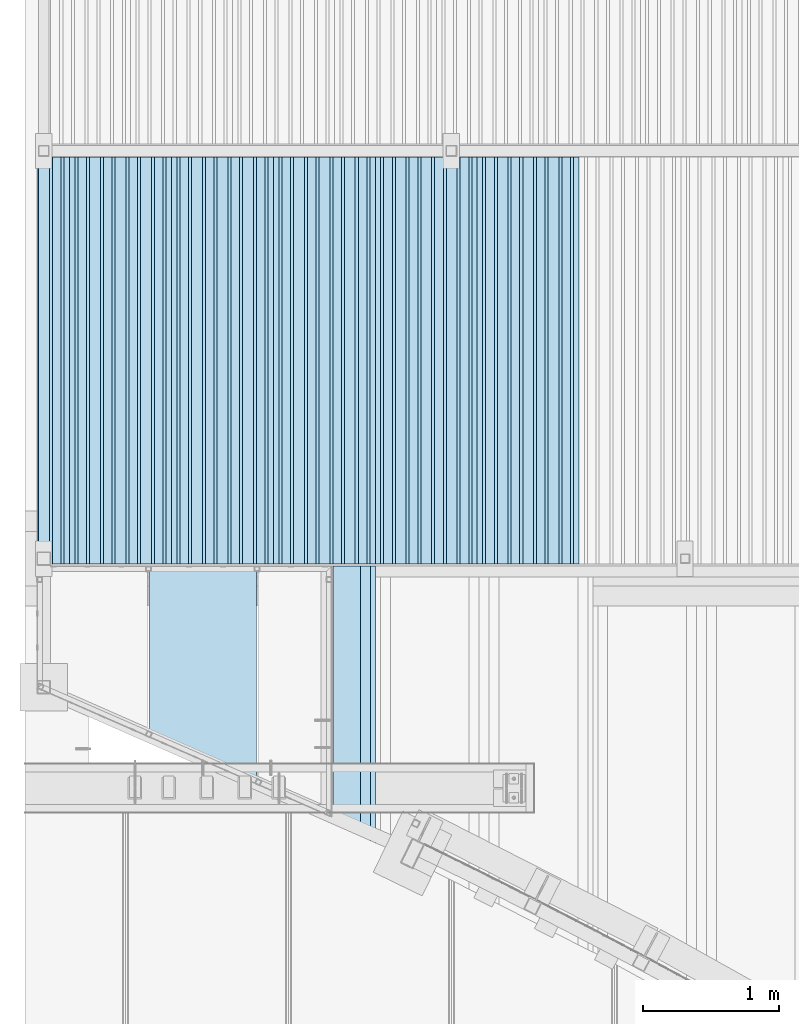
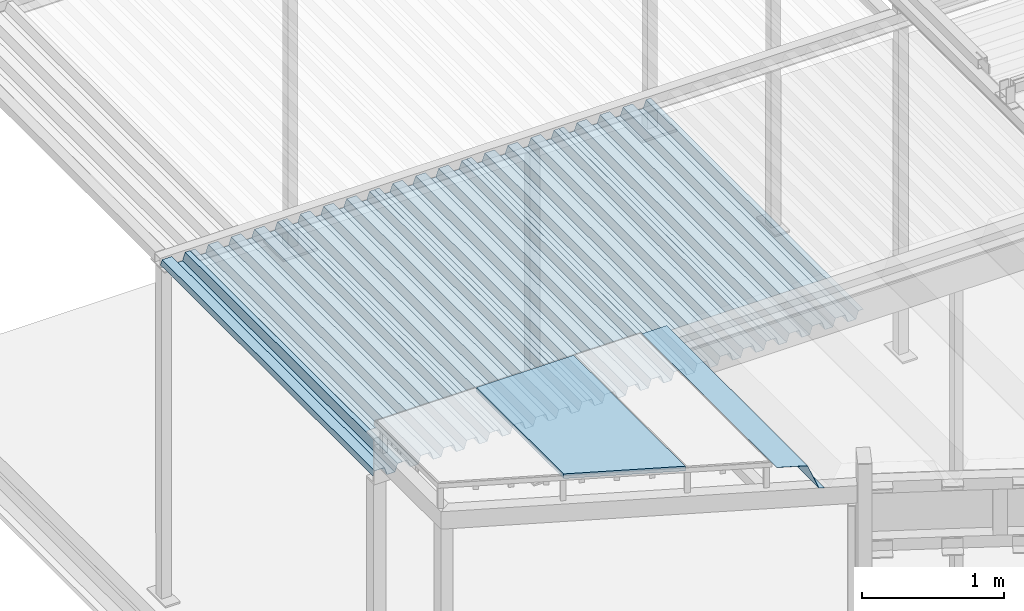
# One storey, part 59 of 98: 8 slabs.
"""IFC2X3 building model written with IfcOpenShell, lengths in millimetres."""

from ifc_helpers import new_model, entity, si_unit, converted_unit, derived_unit, direction, frame, origin_with_axes, place, context, subcontext, project, spatial, faceted_brep, material, type_object, element, save


model = new_model("IFC2X3")

# Units and contexts
model_context = context("Model", 3, precision=0.01, world=frame((0.0, 4.29681676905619e-09, 0.0)), true_north=direction((4.01073788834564e-13, 1.0)))
plan_context = context("Plan", 3, precision=0.01, world=frame((0.0, 4.29681676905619e-09, 0.0)), true_north=direction((4.01073788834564e-13, 1.0)))
body_context = subcontext(model_context, "Body", "Model", "MODEL_VIEW")
ifc_project = project(units=[converted_unit("PLANEANGLEUNIT", "DEGREE", entity("IfcPositiveLengthMeasure", 0.0174532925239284), si_unit("PLANEANGLEUNIT", "RADIAN"), dimensions=[0, 0, 0, 0, 0, 0, 0]), si_unit("AREAUNIT", "SQUARE_METRE"), si_unit("LENGTHUNIT", "METRE", prefix="MILLI"), si_unit("MASSUNIT", "GRAM", prefix="KILO"), si_unit("POWERUNIT", "WATT"), si_unit("PRESSUREUNIT", "PASCAL"), si_unit("FORCEUNIT", "NEWTON", prefix="KILO"), si_unit("ELECTRICCURRENTUNIT", "AMPERE"), si_unit("THERMODYNAMICTEMPERATUREUNIT", "DEGREE_CELSIUS"), si_unit("TIMEUNIT", "SECOND"), si_unit("VOLUMEUNIT", "CUBIC_METRE"), derived_unit("LINEARVELOCITYUNIT", [(si_unit("LENGTHUNIT", "METRE"), 1), (si_unit("TIMEUNIT", "SECOND"), -1)]), derived_unit("VOLUMETRICFLOWRATEUNIT", [(si_unit("VOLUMEUNIT", "CUBIC_METRE"), 1), (si_unit("TIMEUNIT", "SECOND"), -1)]), derived_unit("THERMALTRANSMITTANCEUNIT", [(si_unit("POWERUNIT", "WATT"), 1), (si_unit("THERMODYNAMICTEMPERATUREUNIT", "KELVIN"), -1), (si_unit("AREAUNIT", "SQUARE_METRE"), -1)])], contexts=[model_context, plan_context])

# Site, building, storey
site_placement = place(None, frame((0.0, -4.29681676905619e-09, 0.0), z_axis=(0.0, 0.0, 1.0), x_axis=(1.0, 0.0, 0.0)))
site = spatial("IfcSite", under=ifc_project, at=site_placement, Name="Gardermoen", CompositionType="ELEMENT")
building_placement = place(site_placement, frame((0.0, 4.29681676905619e-09, 0.0), z_axis=(0.0, 0.0, 1.0), x_axis=(1.0, 0.0, 0.0)))
building = spatial("IfcBuilding", under=site, at=building_placement, Name="TS", CompositionType="ELEMENT")
storey_placement = place(building_placement, origin_with_axes())
storey = spatial("IfcBuildingStorey", under=building, at=storey_placement, Name="D", CompositionType="ELEMENT", Elevation=0.0)

# Slabs
ifc_material_1 = material(Name="STEEL/S355")
slab_type_1 = type_object("IfcSlabType", Name="PLANJA70", PredefinedType="NOTDEFINED")
slab_1_placement = place(storey_placement, frame((513814.996695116, 414458.999999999, 206834.129718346), z_axis=(0.0, 0.0, 1.0), x_axis=(0.0, 1.0, 0.0)))
element("IfcSlab", 1, at=slab_1_placement, inside=storey, type_object=slab_type_1, material=ifc_material_1, Name="STÅLTAK", ObjectType="PLANJA70", PredefinedType="FLOOR", context=body_context, shape_type="Brep", body=[
    faceted_brep([(0.0, -226.480117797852, 33.1500015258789), (0.0, -148.519882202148, 33.1500015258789), (2995.66049790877, -148.519882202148, 33.1500015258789), (2995.66049790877, -226.480117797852, 33.1500015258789), (0.0, -249.0, -34.1500015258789), (2995.66049790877, -249.0, -34.1500015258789), (0.0, -313.5, -34.1500015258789), (2995.66049790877, -313.5, -34.1500015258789), (0.0, -335.789306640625, 32.1500015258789), (2995.66049790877, -335.789306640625, 32.1500015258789), (0.0, -375.0, 32.1500015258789), (2995.66049790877, -375.0, 32.1500015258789), (0.0, -375.0, 33.1500015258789), (2995.66049790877, -375.0, 33.1500015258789), (0.0, -335.070495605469, 33.1500015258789), (2995.66049790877, -335.070495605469, 33.1500015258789), (0.0, -312.781188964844, -33.1500015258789), (2995.66049790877, -312.781188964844, -33.1500015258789), (0.0, -249.719879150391, -33.1500015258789), (2995.66049790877, -249.719879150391, -33.1500015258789), (0.0, -227.199996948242, 34.1500015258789), (2995.66049790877, -227.199996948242, 34.1500015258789), (0.0, -147.800003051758, 34.1500015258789), (2995.66049790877, -147.800003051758, 34.1500015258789), (2995.66049790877, -135.00417203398, -4.08996166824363), (0.0, -135.00417203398, -4.08996166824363), (0.0, -135.00417203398, -7.2412992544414), (2995.66049790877, -135.00417203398, -7.2412992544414)], [[[0, 1, 2, 3]], [[4, 0, 3, 5]], [[6, 4, 5, 7]], [[8, 6, 7, 9]], [[10, 8, 9, 11]], [[12, 10, 11, 13]], [[14, 12, 13, 15]], [[16, 14, 15, 17]], [[18, 16, 17, 19]], [[20, 18, 19, 21]], [[22, 20, 21, 23]], [[22, 23, 24, 25]], [[1, 0, 4, 6, 8, 10, 12, 14, 16, 18, 20, 22, 25, 26]], [[2, 1, 26, 27]], [[23, 21, 19, 17, 15, 13, 11, 9, 7, 5, 3, 2, 27, 24]], [[26, 25, 24, 27]]]),
])
slab_2_placement = place(storey_placement, frame((514564.996695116, 414458.999999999, 206834.129718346), z_axis=(0.0, 0.0, 1.0), x_axis=(0.0, 1.0, 0.0)))
element("IfcSlab", 2, at=slab_2_placement, inside=storey, type_object=slab_type_1, material=ifc_material_1, Name="STÅLTAK", ObjectType="PLANJA70", PredefinedType="FLOOR", context=body_context, shape_type="Brep", body=[
    faceted_brep([(0.0, 375.0, 34.1500015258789), (0.0, 335.299987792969, 34.1500015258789), (2995.66049790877, 335.299987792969, 34.1500015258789), (2995.66049790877, 375.0, 34.1500015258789), (0.0, 313.010681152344, -32.1500015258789), (2995.66049790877, 313.010681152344, -32.1500015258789), (0.0, 249.489303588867, -32.1500015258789), (2995.66049790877, 249.489303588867, -32.1500015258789), (0.0, 227.199996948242, 34.1500015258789), (2995.66049790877, 227.199996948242, 34.1500015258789), (0.0, 147.800003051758, 34.1500015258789), (2995.66049790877, 147.800003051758, 34.1500015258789), (0.0, 125.280120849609, -33.1500015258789), (2995.66049790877, 125.280120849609, -33.1500015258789), (0.0, 62.2198791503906, -33.1500015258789), (2995.66049790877, 62.2198791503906, -33.1500015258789), (0.0, 39.7000007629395, 34.1500015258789), (2995.66049790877, 39.7000007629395, 34.1500015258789), (0.0, -39.7000007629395, 34.1500015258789), (2995.66049790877, -39.7000007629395, 34.1500015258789), (0.0, -62.2198791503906, -33.1500015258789), (2995.66049790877, -62.2198791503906, -33.1500015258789), (0.0, -125.280120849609, -33.1500015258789), (2995.66049790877, -125.280120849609, -33.1500015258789), (0.0, -147.800003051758, 34.1500015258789), (2995.66049790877, -147.800003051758, 34.1500015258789), (0.0, -227.199996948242, 34.1500015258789), (2995.66049790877, -227.199996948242, 34.1500015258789), (0.0, -249.719879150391, -33.1500015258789), (2995.66049790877, -249.719879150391, -33.1500015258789), (0.0, -312.781188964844, -33.1500015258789), (2995.66049790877, -312.781188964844, -33.1500015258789), (0.0, -335.070495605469, 33.1500015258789), (2995.66049790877, -335.070495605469, 33.1500015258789), (0.0, -375.0, 33.1500015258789), (2995.66049790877, -375.0, 33.1500015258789), (0.0, -375.0, 32.1500015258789), (2995.66049790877, -375.0, 32.1500015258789), (0.0, -335.789306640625, 32.1500015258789), (2995.66049790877, -335.789306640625, 32.1500015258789), (0.0, -313.5, -34.1500015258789), (2995.66049790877, -313.5, -34.1500015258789), (0.0, -249.0, -34.1500015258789), (2995.66049790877, -249.0, -34.1500015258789), (0.0, -226.480117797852, 33.1500015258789), (2995.66049790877, -226.480117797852, 33.1500015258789), (0.0, -148.519882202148, 33.1500015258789), (2995.66049790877, -148.519882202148, 33.1500015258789), (0.0, -126.0, -34.1500015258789), (2995.66049790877, -126.0, -34.1500015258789), (0.0, -61.5, -34.1500015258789), (2995.66049790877, -61.5, -34.1500015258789), (0.0, -38.9801177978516, 33.1500015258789), (2995.66049790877, -38.9801177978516, 33.1500015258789), (0.0, 38.9801177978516, 33.1500015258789), (2995.66049790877, 38.9801177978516, 33.1500015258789), (0.0, 61.5, -34.1500015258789), (2995.66049790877, 61.5, -34.1500015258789), (0.0, 126.0, -34.1500015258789), (2995.66049790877, 126.0, -34.1500015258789), (0.0, 148.519882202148, 33.1500015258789), (2995.66049790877, 148.519882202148, 33.1500015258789), (0.0, 226.481185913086, 33.1500015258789), (2995.66049790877, 226.481185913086, 33.1500015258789), (0.0, 248.770492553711, -33.1500015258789), (2995.66049790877, 248.770492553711, -33.1500015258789), (0.0, 313.7294921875, -33.1500015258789), (2995.66049790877, 313.7294921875, -33.1500015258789), (0.0, 336.018798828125, 33.1500015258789), (2995.66049790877, 336.018798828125, 33.1500015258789), (0.0, 375.0, 33.1500015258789), (2995.66049790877, 375.0, 33.1500015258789)], [[[0, 1, 2, 3]], [[1, 4, 5, 2]], [[4, 6, 7, 5]], [[6, 8, 9, 7]], [[8, 10, 11, 9]], [[10, 12, 13, 11]], [[12, 14, 15, 13]], [[14, 16, 17, 15]], [[16, 18, 19, 17]], [[18, 20, 21, 19]], [[20, 22, 23, 21]], [[22, 24, 25, 23]], [[24, 26, 27, 25]], [[26, 28, 29, 27]], [[28, 30, 31, 29]], [[30, 32, 33, 31]], [[32, 34, 35, 33]], [[34, 36, 37, 35]], [[36, 38, 39, 37]], [[38, 40, 41, 39]], [[40, 42, 43, 41]], [[42, 44, 45, 43]], [[44, 46, 47, 45]], [[46, 48, 49, 47]], [[48, 50, 51, 49]], [[50, 52, 53, 51]], [[52, 54, 55, 53]], [[54, 56, 57, 55]], [[56, 58, 59, 57]], [[58, 60, 61, 59]], [[60, 62, 63, 61]], [[62, 64, 65, 63]], [[64, 66, 67, 65]], [[66, 68, 69, 67]], [[68, 70, 71, 69]], [[70, 0, 3, 71]], [[5, 7, 9, 11, 13, 15, 17, 19, 21, 23, 25, 27, 29, 31, 33, 35, 37, 39, 41, 43, 45, 47, 49, 51, 53, 55, 57, 59, 61, 63, 65, 67, 69, 71, 3, 2]], [[70, 68, 66, 64, 62, 60, 58, 56, 54, 52, 50, 48, 46, 44, 42, 40, 38, 36, 34, 32, 30, 28, 26, 24, 22, 20, 18, 16, 14, 12, 10, 8, 6, 4, 1, 0]]]),
])
slab_3_placement = place(storey_placement, frame((515314.996695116, 414458.999999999, 206834.129718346), z_axis=(0.0, 0.0, 1.0), x_axis=(0.0, 1.0, 0.0)))
element("IfcSlab", 3, at=slab_3_placement, inside=storey, type_object=slab_type_1, material=ifc_material_1, Name="STÅLTAK", ObjectType="PLANJA70", PredefinedType="FLOOR", context=body_context, shape_type="Brep", body=[
    faceted_brep([(0.0, 375.0, 34.1500015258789), (0.0, 335.299987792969, 34.1500015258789), (2995.66049790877, 335.299987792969, 34.1500015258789), (2995.66049790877, 375.0, 34.1500015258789), (0.0, 313.010681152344, -32.1500015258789), (2995.66049790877, 313.010681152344, -32.1500015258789), (0.0, 249.489303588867, -32.1500015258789), (2995.66049790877, 249.489303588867, -32.1500015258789), (0.0, 227.199996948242, 34.1500015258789), (2995.66049790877, 227.199996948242, 34.1500015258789), (0.0, 147.800003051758, 34.1500015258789), (2995.66049790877, 147.800003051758, 34.1500015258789), (0.0, 125.280120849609, -33.1500015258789), (2995.66049790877, 125.280120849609, -33.1500015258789), (0.0, 62.2198791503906, -33.1500015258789), (2995.66049790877, 62.2198791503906, -33.1500015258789), (0.0, 39.7000007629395, 34.1500015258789), (2995.66049790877, 39.7000007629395, 34.1500015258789), (0.0, -39.7000007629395, 34.1500015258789), (2995.66049790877, -39.7000007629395, 34.1500015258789), (0.0, -62.2198791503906, -33.1500015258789), (2995.66049790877, -62.2198791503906, -33.1500015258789), (0.0, -125.280120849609, -33.1500015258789), (2995.66049790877, -125.280120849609, -33.1500015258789), (0.0, -147.800003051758, 34.1500015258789), (2995.66049790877, -147.800003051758, 34.1500015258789), (0.0, -227.199996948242, 34.1500015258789), (2995.66049790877, -227.199996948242, 34.1500015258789), (0.0, -249.719879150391, -33.1500015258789), (2995.66049790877, -249.719879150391, -33.1500015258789), (0.0, -312.781188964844, -33.1500015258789), (2995.66049790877, -312.781188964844, -33.1500015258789), (0.0, -335.070495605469, 33.1500015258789), (2995.66049790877, -335.070495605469, 33.1500015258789), (0.0, -375.0, 33.1500015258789), (2995.66049790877, -375.0, 33.1500015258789), (0.0, -375.0, 32.1500015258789), (2995.66049790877, -375.0, 32.1500015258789), (0.0, -335.789306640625, 32.1500015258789), (2995.66049790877, -335.789306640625, 32.1500015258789), (0.0, -313.5, -34.1500015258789), (2995.66049790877, -313.5, -34.1500015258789), (0.0, -249.0, -34.1500015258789), (2995.66049790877, -249.0, -34.1500015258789), (0.0, -226.480117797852, 33.1500015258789), (2995.66049790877, -226.480117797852, 33.1500015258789), (0.0, -148.519882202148, 33.1500015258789), (2995.66049790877, -148.519882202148, 33.1500015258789), (0.0, -126.0, -34.1500015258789), (2995.66049790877, -126.0, -34.1500015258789), (0.0, -61.5, -34.1500015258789), (2995.66049790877, -61.5, -34.1500015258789), (0.0, -38.9801177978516, 33.1500015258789), (2995.66049790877, -38.9801177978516, 33.1500015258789), (0.0, 38.9801177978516, 33.1500015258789), (2995.66049790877, 38.9801177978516, 33.1500015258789), (0.0, 61.5, -34.1500015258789), (2995.66049790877, 61.5, -34.1500015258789), (0.0, 126.0, -34.1500015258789), (2995.66049790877, 126.0, -34.1500015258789), (0.0, 148.519882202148, 33.1500015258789), (2995.66049790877, 148.519882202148, 33.1500015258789), (0.0, 226.481185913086, 33.1500015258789), (2995.66049790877, 226.481185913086, 33.1500015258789), (0.0, 248.770492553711, -33.1500015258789), (2995.66049790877, 248.770492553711, -33.1500015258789), (0.0, 313.7294921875, -33.1500015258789), (2995.66049790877, 313.7294921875, -33.1500015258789), (0.0, 336.018798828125, 33.1500015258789), (2995.66049790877, 336.018798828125, 33.1500015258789), (0.0, 375.0, 33.1500015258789), (2995.66049790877, 375.0, 33.1500015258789)], [[[0, 1, 2, 3]], [[1, 4, 5, 2]], [[4, 6, 7, 5]], [[6, 8, 9, 7]], [[8, 10, 11, 9]], [[10, 12, 13, 11]], [[12, 14, 15, 13]], [[14, 16, 17, 15]], [[16, 18, 19, 17]], [[18, 20, 21, 19]], [[20, 22, 23, 21]], [[22, 24, 25, 23]], [[24, 26, 27, 25]], [[26, 28, 29, 27]], [[28, 30, 31, 29]], [[30, 32, 33, 31]], [[32, 34, 35, 33]], [[34, 36, 37, 35]], [[36, 38, 39, 37]], [[38, 40, 41, 39]], [[40, 42, 43, 41]], [[42, 44, 45, 43]], [[44, 46, 47, 45]], [[46, 48, 49, 47]], [[48, 50, 51, 49]], [[50, 52, 53, 51]], [[52, 54, 55, 53]], [[54, 56, 57, 55]], [[56, 58, 59, 57]], [[58, 60, 61, 59]], [[60, 62, 63, 61]], [[62, 64, 65, 63]], [[64, 66, 67, 65]], [[66, 68, 69, 67]], [[68, 70, 71, 69]], [[70, 0, 3, 71]], [[5, 7, 9, 11, 13, 15, 17, 19, 21, 23, 25, 27, 29, 31, 33, 35, 37, 39, 41, 43, 45, 47, 49, 51, 53, 55, 57, 59, 61, 63, 65, 67, 69, 71, 3, 2]], [[70, 68, 66, 64, 62, 60, 58, 56, 54, 52, 50, 48, 46, 44, 42, 40, 38, 36, 34, 32, 30, 28, 26, 24, 22, 20, 18, 16, 14, 12, 10, 8, 6, 4, 1, 0]]]),
])
slab_4_placement = place(storey_placement, frame((516064.996695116, 414458.999999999, 206834.129718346), z_axis=(0.0, 0.0, 1.0), x_axis=(0.0, 1.0, 0.0)))
element("IfcSlab", 4, at=slab_4_placement, inside=storey, type_object=slab_type_1, material=ifc_material_1, Name="STÅLTAK", ObjectType="PLANJA70", PredefinedType="FLOOR", context=body_context, shape_type="Brep", body=[
    faceted_brep([(0.0, 375.0, 34.1500015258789), (0.0, 335.299987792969, 34.1500015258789), (2995.66049790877, 335.299987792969, 34.1500015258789), (2995.66049790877, 375.0, 34.1500015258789), (0.0, 313.010681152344, -32.1500015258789), (2995.66049790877, 313.010681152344, -32.1500015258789), (0.0, 249.489303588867, -32.1500015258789), (2995.66049790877, 249.489303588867, -32.1500015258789), (0.0, 227.199996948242, 34.1500015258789), (2995.66049790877, 227.199996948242, 34.1500015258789), (0.0, 147.800003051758, 34.1500015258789), (2995.66049790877, 147.800003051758, 34.1500015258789), (0.0, 125.280120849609, -33.1500015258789), (2995.66049790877, 125.280120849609, -33.1500015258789), (0.0, 62.2198791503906, -33.1500015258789), (2995.66049790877, 62.2198791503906, -33.1500015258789), (0.0, 39.7000007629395, 34.1500015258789), (2995.66049790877, 39.7000007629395, 34.1500015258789), (0.0, -39.7000007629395, 34.1500015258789), (2995.66049790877, -39.7000007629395, 34.1500015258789), (0.0, -62.2198791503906, -33.1500015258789), (2995.66049790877, -62.2198791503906, -33.1500015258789), (0.0, -125.280120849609, -33.1500015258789), (2995.66049790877, -125.280120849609, -33.1500015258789), (0.0, -147.800003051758, 34.1500015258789), (2995.66049790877, -147.800003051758, 34.1500015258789), (0.0, -227.199996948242, 34.1500015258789), (2995.66049790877, -227.199996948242, 34.1500015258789), (0.0, -249.719879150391, -33.1500015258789), (2995.66049790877, -249.719879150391, -33.1500015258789), (0.0, -312.781188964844, -33.1500015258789), (2995.66049790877, -312.781188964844, -33.1500015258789), (0.0, -335.070495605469, 33.1500015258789), (2995.66049790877, -335.070495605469, 33.1500015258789), (0.0, -375.0, 33.1500015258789), (2995.66049790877, -375.0, 33.1500015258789), (0.0, -375.0, 32.1500015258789), (2995.66049790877, -375.0, 32.1500015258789), (0.0, -335.789306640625, 32.1500015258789), (2995.66049790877, -335.789306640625, 32.1500015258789), (0.0, -313.5, -34.1500015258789), (2995.66049790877, -313.5, -34.1500015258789), (0.0, -249.0, -34.1500015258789), (2995.66049790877, -249.0, -34.1500015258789), (0.0, -226.480117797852, 33.1500015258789), (2995.66049790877, -226.480117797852, 33.1500015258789), (0.0, -148.519882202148, 33.1500015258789), (2995.66049790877, -148.519882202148, 33.1500015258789), (0.0, -126.0, -34.1500015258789), (2995.66049790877, -126.0, -34.1500015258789), (0.0, -61.5, -34.1500015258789), (2995.66049790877, -61.5, -34.1500015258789), (0.0, -38.9801177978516, 33.1500015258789), (2995.66049790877, -38.9801177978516, 33.1500015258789), (0.0, 38.9801177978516, 33.1500015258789), (2995.66049790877, 38.9801177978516, 33.1500015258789), (0.0, 61.5, -34.1500015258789), (2995.66049790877, 61.5, -34.1500015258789), (0.0, 126.0, -34.1500015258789), (2995.66049790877, 126.0, -34.1500015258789), (0.0, 148.519882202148, 33.1500015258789), (2995.66049790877, 148.519882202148, 33.1500015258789), (0.0, 226.481185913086, 33.1500015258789), (2995.66049790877, 226.481185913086, 33.1500015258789), (0.0, 248.770492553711, -33.1500015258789), (2995.66049790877, 248.770492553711, -33.1500015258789), (0.0, 313.7294921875, -33.1500015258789), (2995.66049790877, 313.7294921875, -33.1500015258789), (0.0, 336.018798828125, 33.1500015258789), (2995.66049790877, 336.018798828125, 33.1500015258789), (0.0, 375.0, 33.1500015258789), (2995.66049790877, 375.0, 33.1500015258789)], [[[0, 1, 2, 3]], [[1, 4, 5, 2]], [[4, 6, 7, 5]], [[6, 8, 9, 7]], [[8, 10, 11, 9]], [[10, 12, 13, 11]], [[12, 14, 15, 13]], [[14, 16, 17, 15]], [[16, 18, 19, 17]], [[18, 20, 21, 19]], [[20, 22, 23, 21]], [[22, 24, 25, 23]], [[24, 26, 27, 25]], [[26, 28, 29, 27]], [[28, 30, 31, 29]], [[30, 32, 33, 31]], [[32, 34, 35, 33]], [[34, 36, 37, 35]], [[36, 38, 39, 37]], [[38, 40, 41, 39]], [[40, 42, 43, 41]], [[42, 44, 45, 43]], [[44, 46, 47, 45]], [[46, 48, 49, 47]], [[48, 50, 51, 49]], [[50, 52, 53, 51]], [[52, 54, 55, 53]], [[54, 56, 57, 55]], [[56, 58, 59, 57]], [[58, 60, 61, 59]], [[60, 62, 63, 61]], [[62, 64, 65, 63]], [[64, 66, 67, 65]], [[66, 68, 69, 67]], [[68, 70, 71, 69]], [[70, 0, 3, 71]], [[5, 7, 9, 11, 13, 15, 17, 19, 21, 23, 25, 27, 29, 31, 33, 35, 37, 39, 41, 43, 45, 47, 49, 51, 53, 55, 57, 59, 61, 63, 65, 67, 69, 71, 3, 2]], [[70, 68, 66, 64, 62, 60, 58, 56, 54, 52, 50, 48, 46, 44, 42, 40, 38, 36, 34, 32, 30, 28, 26, 24, 22, 20, 18, 16, 14, 12, 10, 8, 6, 4, 1, 0]]]),
])
slab_5_placement = place(storey_placement, frame((516814.996695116, 414458.999999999, 206834.129718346), z_axis=(0.0, 0.0, 1.0), x_axis=(0.0, 1.0, 0.0)))
element("IfcSlab", 5, at=slab_5_placement, inside=storey, type_object=slab_type_1, material=ifc_material_1, Name="STÅLTAK", ObjectType="PLANJA70", PredefinedType="FLOOR", context=body_context, shape_type="Brep", body=[
    faceted_brep([(0.0, 375.0, 34.1500015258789), (0.0, 335.299987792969, 34.1500015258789), (2995.66049790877, 335.299987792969, 34.1500015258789), (2995.66049790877, 375.0, 34.1500015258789), (0.0, 313.010681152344, -32.1500015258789), (2995.66049790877, 313.010681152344, -32.1500015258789), (0.0, 249.489303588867, -32.1500015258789), (2995.66049790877, 249.489303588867, -32.1500015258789), (0.0, 227.199996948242, 34.1500015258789), (2995.66049790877, 227.199996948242, 34.1500015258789), (0.0, 147.800003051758, 34.1500015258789), (2995.66049790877, 147.800003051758, 34.1500015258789), (0.0, 125.280120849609, -33.1500015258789), (2995.66049790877, 125.280120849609, -33.1500015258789), (0.0, 62.2198791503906, -33.1500015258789), (2995.66049790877, 62.2198791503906, -33.1500015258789), (0.0, 39.7000007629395, 34.1500015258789), (2995.66049790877, 39.7000007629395, 34.1500015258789), (0.0, -39.7000007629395, 34.1500015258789), (2995.66049790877, -39.7000007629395, 34.1500015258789), (0.0, -62.2198791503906, -33.1500015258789), (2995.66049790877, -62.2198791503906, -33.1500015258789), (0.0, -125.280120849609, -33.1500015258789), (2995.66049790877, -125.280120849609, -33.1500015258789), (0.0, -147.800003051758, 34.1500015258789), (2995.66049790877, -147.800003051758, 34.1500015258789), (0.0, -227.199996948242, 34.1500015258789), (2995.66049790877, -227.199996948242, 34.1500015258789), (0.0, -249.719879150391, -33.1500015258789), (2995.66049790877, -249.719879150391, -33.1500015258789), (0.0, -312.781188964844, -33.1500015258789), (2995.66049790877, -312.781188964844, -33.1500015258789), (0.0, -335.070495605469, 33.1500015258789), (2995.66049790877, -335.070495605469, 33.1500015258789), (0.0, -375.0, 33.1500015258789), (2995.66049790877, -375.0, 33.1500015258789), (0.0, -375.0, 32.1500015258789), (2995.66049790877, -375.0, 32.1500015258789), (0.0, -335.789306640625, 32.1500015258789), (2995.66049790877, -335.789306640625, 32.1500015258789), (0.0, -313.5, -34.1500015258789), (2995.66049790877, -313.5, -34.1500015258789), (0.0, -249.0, -34.1500015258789), (2995.66049790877, -249.0, -34.1500015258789), (0.0, -226.480117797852, 33.1500015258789), (2995.66049790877, -226.480117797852, 33.1500015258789), (0.0, -148.519882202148, 33.1500015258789), (2995.66049790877, -148.519882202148, 33.1500015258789), (0.0, -126.0, -34.1500015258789), (2995.66049790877, -126.0, -34.1500015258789), (0.0, -61.5, -34.1500015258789), (2995.66049790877, -61.5, -34.1500015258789), (0.0, -38.9801177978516, 33.1500015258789), (2995.66049790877, -38.9801177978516, 33.1500015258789), (0.0, 38.9801177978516, 33.1500015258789), (2995.66049790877, 38.9801177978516, 33.1500015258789), (0.0, 61.5, -34.1500015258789), (2995.66049790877, 61.5, -34.1500015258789), (0.0, 126.0, -34.1500015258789), (2995.66049790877, 126.0, -34.1500015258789), (0.0, 148.519882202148, 33.1500015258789), (2995.66049790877, 148.519882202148, 33.1500015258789), (0.0, 226.481185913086, 33.1500015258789), (2995.66049790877, 226.481185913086, 33.1500015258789), (0.0, 248.770492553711, -33.1500015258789), (2995.66049790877, 248.770492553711, -33.1500015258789), (0.0, 313.7294921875, -33.1500015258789), (2995.66049790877, 313.7294921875, -33.1500015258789), (0.0, 336.018798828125, 33.1500015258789), (2995.66049790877, 336.018798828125, 33.1500015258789), (0.0, 375.0, 33.1500015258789), (2995.66049790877, 375.0, 33.1500015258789)], [[[0, 1, 2, 3]], [[1, 4, 5, 2]], [[4, 6, 7, 5]], [[6, 8, 9, 7]], [[8, 10, 11, 9]], [[10, 12, 13, 11]], [[12, 14, 15, 13]], [[14, 16, 17, 15]], [[16, 18, 19, 17]], [[18, 20, 21, 19]], [[20, 22, 23, 21]], [[22, 24, 25, 23]], [[24, 26, 27, 25]], [[26, 28, 29, 27]], [[28, 30, 31, 29]], [[30, 32, 33, 31]], [[32, 34, 35, 33]], [[34, 36, 37, 35]], [[36, 38, 39, 37]], [[38, 40, 41, 39]], [[40, 42, 43, 41]], [[42, 44, 45, 43]], [[44, 46, 47, 45]], [[46, 48, 49, 47]], [[48, 50, 51, 49]], [[50, 52, 53, 51]], [[52, 54, 55, 53]], [[54, 56, 57, 55]], [[56, 58, 59, 57]], [[58, 60, 61, 59]], [[60, 62, 63, 61]], [[62, 64, 65, 63]], [[64, 66, 67, 65]], [[66, 68, 69, 67]], [[68, 70, 71, 69]], [[70, 0, 3, 71]], [[5, 7, 9, 11, 13, 15, 17, 19, 21, 23, 25, 27, 29, 31, 33, 35, 37, 39, 41, 43, 45, 47, 49, 51, 53, 55, 57, 59, 61, 63, 65, 67, 69, 71, 3, 2]], [[70, 68, 66, 64, 62, 60, 58, 56, 54, 52, 50, 48, 46, 44, 42, 40, 38, 36, 34, 32, 30, 28, 26, 24, 22, 20, 18, 16, 14, 12, 10, 8, 6, 4, 1, 0]]]),
])
slab_6_placement = place(storey_placement, frame((517564.996695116, 414458.999999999, 206834.129718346), z_axis=(0.0, 0.0, 1.0), x_axis=(0.0, 1.0, 0.0)))
element("IfcSlab", 6, at=slab_6_placement, inside=storey, type_object=slab_type_1, material=ifc_material_1, Name="STÅLTAK", ObjectType="PLANJA70", PredefinedType="FLOOR", context=body_context, shape_type="Brep", body=[
    faceted_brep([(0.0, 375.0, 34.1500015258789), (0.0, 335.299987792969, 34.1500015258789), (2995.66049790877, 335.299987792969, 34.1500015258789), (2995.66049790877, 375.0, 34.1500015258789), (0.0, 313.010681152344, -32.1500015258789), (2995.66049790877, 313.010681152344, -32.1500015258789), (0.0, 249.489303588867, -32.1500015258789), (2995.66049790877, 249.489303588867, -32.1500015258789), (0.0, 227.199996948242, 34.1500015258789), (2995.66049790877, 227.199996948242, 34.1500015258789), (0.0, 147.800003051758, 34.1500015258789), (2995.66049790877, 147.800003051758, 34.1500015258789), (0.0, 125.280120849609, -33.1500015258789), (2995.66049790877, 125.280120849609, -33.1500015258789), (0.0, 62.2198791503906, -33.1500015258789), (2995.66049790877, 62.2198791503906, -33.1500015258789), (0.0, 39.7000007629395, 34.1500015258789), (2995.66049790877, 39.7000007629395, 34.1500015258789), (0.0, -39.7000007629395, 34.1500015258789), (2995.66049790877, -39.7000007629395, 34.1500015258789), (0.0, -62.2198791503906, -33.1500015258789), (2995.66049790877, -62.2198791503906, -33.1500015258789), (0.0, -125.280120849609, -33.1500015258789), (2995.66049790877, -125.280120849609, -33.1500015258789), (0.0, -147.800003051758, 34.1500015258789), (2995.66049790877, -147.800003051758, 34.1500015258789), (0.0, -227.199996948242, 34.1500015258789), (2995.66049790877, -227.199996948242, 34.1500015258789), (0.0, -249.719879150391, -33.1500015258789), (2995.66049790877, -249.719879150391, -33.1500015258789), (0.0, -312.781188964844, -33.1500015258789), (2995.66049790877, -312.781188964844, -33.1500015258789), (0.0, -335.070495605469, 33.1500015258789), (2995.66049790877, -335.070495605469, 33.1500015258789), (0.0, -375.0, 33.1500015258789), (2995.66049790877, -375.0, 33.1500015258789), (0.0, -375.0, 32.1500015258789), (2995.66049790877, -375.0, 32.1500015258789), (0.0, -335.789306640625, 32.1500015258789), (2995.66049790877, -335.789306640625, 32.1500015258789), (0.0, -313.5, -34.1500015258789), (2995.66049790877, -313.5, -34.1500015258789), (0.0, -249.0, -34.1500015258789), (2995.66049790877, -249.0, -34.1500015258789), (0.0, -226.480117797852, 33.1500015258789), (2995.66049790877, -226.480117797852, 33.1500015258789), (0.0, -148.519882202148, 33.1500015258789), (2995.66049790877, -148.519882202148, 33.1500015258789), (0.0, -126.0, -34.1500015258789), (2995.66049790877, -126.0, -34.1500015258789), (0.0, -61.5, -34.1500015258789), (2995.66049790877, -61.5, -34.1500015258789), (0.0, -38.9801177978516, 33.1500015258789), (2995.66049790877, -38.9801177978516, 33.1500015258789), (0.0, 38.9801177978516, 33.1500015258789), (2995.66049790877, 38.9801177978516, 33.1500015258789), (0.0, 61.5, -34.1500015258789), (2995.66049790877, 61.5, -34.1500015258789), (0.0, 126.0, -34.1500015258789), (2995.66049790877, 126.0, -34.1500015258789), (0.0, 148.519882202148, 33.1500015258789), (2995.66049790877, 148.519882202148, 33.1500015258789), (0.0, 226.481185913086, 33.1500015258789), (2995.66049790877, 226.481185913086, 33.1500015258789), (0.0, 248.770492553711, -33.1500015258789), (2995.66049790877, 248.770492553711, -33.1500015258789), (0.0, 313.7294921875, -33.1500015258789), (2995.66049790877, 313.7294921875, -33.1500015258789), (0.0, 336.018798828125, 33.1500015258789), (2995.66049790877, 336.018798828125, 33.1500015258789), (0.0, 375.0, 33.1500015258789), (2995.66049790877, 375.0, 33.1500015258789)], [[[0, 1, 2, 3]], [[1, 4, 5, 2]], [[4, 6, 7, 5]], [[6, 8, 9, 7]], [[8, 10, 11, 9]], [[10, 12, 13, 11]], [[12, 14, 15, 13]], [[14, 16, 17, 15]], [[16, 18, 19, 17]], [[18, 20, 21, 19]], [[20, 22, 23, 21]], [[22, 24, 25, 23]], [[24, 26, 27, 25]], [[26, 28, 29, 27]], [[28, 30, 31, 29]], [[30, 32, 33, 31]], [[32, 34, 35, 33]], [[34, 36, 37, 35]], [[36, 38, 39, 37]], [[38, 40, 41, 39]], [[40, 42, 43, 41]], [[42, 44, 45, 43]], [[44, 46, 47, 45]], [[46, 48, 49, 47]], [[48, 50, 51, 49]], [[50, 52, 53, 51]], [[52, 54, 55, 53]], [[54, 56, 57, 55]], [[56, 58, 59, 57]], [[58, 60, 61, 59]], [[60, 62, 63, 61]], [[62, 64, 65, 63]], [[64, 66, 67, 65]], [[66, 68, 69, 67]], [[68, 70, 71, 69]], [[70, 0, 3, 71]], [[5, 7, 9, 11, 13, 15, 17, 19, 21, 23, 25, 27, 29, 31, 33, 35, 37, 39, 41, 43, 45, 47, 49, 51, 53, 55, 57, 59, 61, 63, 65, 67, 69, 71, 3, 2]], [[70, 68, 66, 64, 62, 60, 58, 56, 54, 52, 50, 48, 46, 44, 42, 40, 38, 36, 34, 32, 30, 28, 26, 24, 22, 20, 18, 16, 14, 12, 10, 8, 6, 4, 1, 0]]]),
])
slab_type_2 = type_object("IfcSlabType", Name="PLANNJA200", PredefinedType="NOTDEFINED")
slab_7_placement = place(storey_placement, frame((515640.35, 412485.906009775, 207199.0), z_axis=(0.0, 0.0, 1.0), x_axis=(0.0, 1.0, 0.0)))
element("IfcSlab", 7, at=slab_7_placement, inside=storey, type_object=slab_type_2, material=ifc_material_1, Name="STÅLTAK", ObjectType="PLANNJA200", PredefinedType="FLOOR", context=body_context, shape_type="Brep", body=[
    faceted_brep([(-61.3808975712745, -762.5, -99.5), (-28.7718383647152, -689.303527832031, 98.5), (1959.07399022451, -689.303527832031, 98.5), (1959.07399022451, -762.5, -99.5), (-78.0871633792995, -800.0, -99.5), (1959.07399022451, -800.0, -99.5), (-78.0871633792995, -800.0, -98.5), (1959.07399022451, -800.0, -98.5), (-61.6911762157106, -763.196472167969, -98.5), (1959.07399022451, -763.196472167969, -98.5), (-29.0821170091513, -690.0, 99.5), (1959.07399022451, -690.0, 99.5), (1959.07399022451, -489.6484350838, 99.5), (60.174589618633, -489.6484350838, 99.5), (60.174589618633, -489.6484350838, 98.5), (1959.07399022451, -489.6484350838, 98.5)], [[[0, 1, 2, 3]], [[4, 0, 3, 5]], [[6, 4, 5, 7]], [[8, 6, 7, 9]], [[10, 8, 9, 11]], [[10, 11, 12, 13]], [[1, 0, 4, 6, 8, 10, 13, 14]], [[2, 1, 14, 15]], [[11, 9, 7, 5, 3, 2, 15, 12]], [[14, 13, 12, 15]]]),
])
ifc_material_2 = material(Name="STEEL/Steel_Undefined")
slab_type_3 = type_object("IfcSlabType", Name="PL40*790", PredefinedType="NOTDEFINED")
slab_8_placement = place(storey_placement, frame((515564.996604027, 414429.981084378, 207300.0), z_axis=(9.99999902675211e-08, -0.999999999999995, 0.0), x_axis=(-0.999999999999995, -9.99999902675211e-08, 0.0)))
element("IfcSlab", 8, at=slab_8_placement, inside=storey, type_object=slab_type_3, material=ifc_material_2, Name="STÅLRIST", ObjectType="PL40*790", PredefinedType="FLOOR", context=body_context, shape_type="Brep", body=[
    faceted_brep([(0.0, -20.0, 0.0), (5.82076609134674e-11, -20.0, 1573.9638671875), (5.82076609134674e-11, 20.0, 1573.9638671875), (0.0, 20.0, 0.0), (790.0, -20.0, 1227.92822265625), (790.0, 20.0, 1227.92822265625), (790.0, -20.0, -5.82076609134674e-11), (790.0, 20.0, -5.82076609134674e-11)], [[[0, 1, 2, 3]], [[1, 4, 5, 2]], [[4, 6, 7, 5]], [[6, 0, 3, 7]], [[5, 7, 3, 2]], [[6, 4, 1, 0]]]),
])

save(model, "model.ifc")
